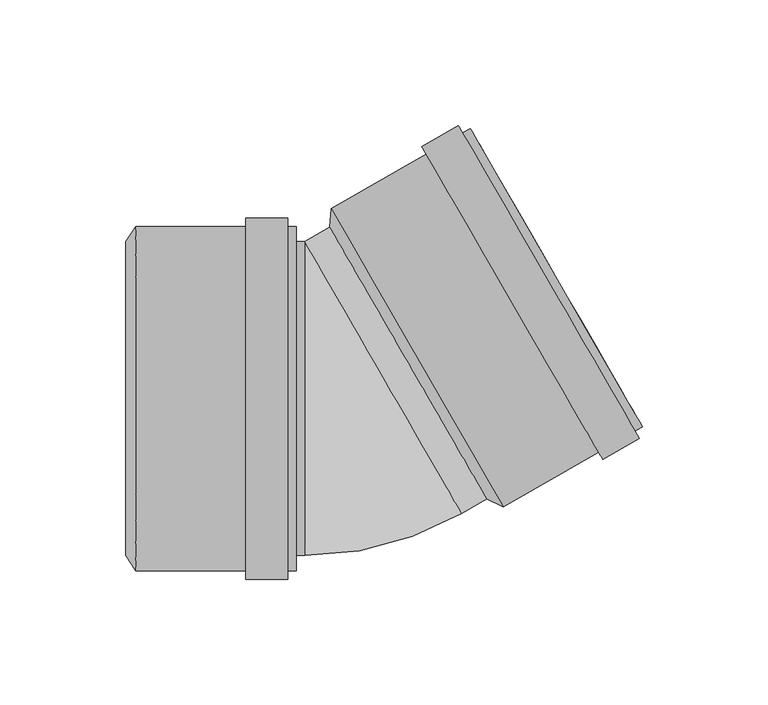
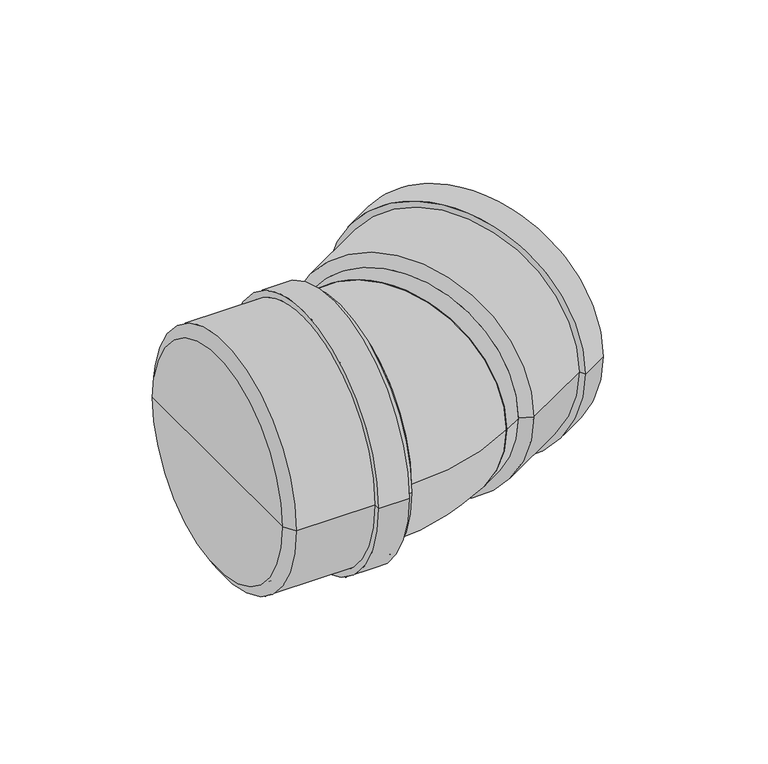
"""IFC4 building model written with IfcOpenShell, lengths in millimetres: pipe fitting geometry, pf_KGB : pf_KGB."""

from ifc_helpers import new_model, si_unit, point, frame, origin, origin_2d, place, context, project, spatial, polyline, circle_curve, ellipse_curve, trimmed, segment, composite_curve, outline, extrude, source, transform, mapped, element, save
from ifc_brep_helpers import plane_surface, cylinder_surface, revolved_surface, advanced_brep


def pipe_fitting_5a6e30b1(model_context):
    return source(origin(), model_context, "Body", "SolidModel", [
        advanced_brep(
        [(55.7585189, -39.9765877, 0.0), (-6.7414811, 68.2765877, 0.0), (-6.2407769, 75.6093427, 0.0), (62.3592231, -43.2093427, 0.0), (24.5085189, 14.15, 0.0), (117.6982464, -11.2593427, 0.0), (49.0982464, 107.5593427, 0.0), (52.1482464, 102.2765877, 0.0), (114.6482464, -5.9765877, 0.0), (46.15376, 105.8593427, 0.0), (114.75376, -12.9593427, 0.0), (44.45376, 108.8038291, 0.0), (116.45376, -15.9038291, 0.0), (29.9045332, 100.4038291, 0.0), (101.9045332, -24.3038291, 0.0), (31.6045332, 97.4593427, 0.0), (100.2045332, -21.3593427, 0.0), (59.3092231, -37.9265877, 0.0), (-3.1907769, 70.3265877, 0.0), (28.0592231, 16.2, 0.0)],
        [
            (0, 1, circle_curve(frame((24.5085189, 14.15, 0.0), z_axis=(0.866025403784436, 0.5000000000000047, 0.0), x_axis=(-0.5000000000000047, 0.866025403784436, 0.0)), 62.5)),
            (1, 2),
            (2, 3, circle_curve(frame((28.0592231, 16.2, 0.0), z_axis=(-0.866025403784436, -0.5000000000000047, 0.0), x_axis=(-0.5000000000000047, 0.866025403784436, 0.0)), 68.6)),
            (3, 0),
            (1, 0, circle_curve(frame((24.5085189, 14.15, 0.0), z_axis=(0.866025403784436, 0.5000000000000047, 0.0), x_axis=(-0.5000000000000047, 0.866025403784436, 0.0)), 62.5)),
            (3, 2, circle_curve(frame((28.0592231, 16.2, 0.0), z_axis=(-0.866025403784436, -0.5000000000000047, 0.0), x_axis=(-0.5000000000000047, 0.866025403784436, 0.0)), 68.6)),
            (4, 1),
            (0, 4),
            (5, 6, circle_curve(frame((83.3982464, 48.15, 0.0), z_axis=(0.866025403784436, 0.5000000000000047, 0.0), x_axis=(-0.5000000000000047, 0.866025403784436, 0.0)), 68.6)),
            (6, 7),
            (7, 8, circle_curve(frame((83.3982464, 48.15, 0.0), z_axis=(-0.866025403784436, -0.5000000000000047, 0.0), x_axis=(-0.5000000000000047, 0.866025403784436, 0.0)), 62.5)),
            (8, 5),
            (9, 10, circle_curve(frame((80.45376, 46.45, 0.0), z_axis=(0.866025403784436, 0.5000000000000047, 0.0), x_axis=(-0.5000000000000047, 0.866025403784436, 0.0)), 68.6)),
            (10, 5),
            (5, 6, circle_curve(frame((83.3982464, 48.15, 0.0), z_axis=(-0.866025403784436, -0.5000000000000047, 0.0), x_axis=(-0.5000000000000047, 0.866025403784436, 0.0)), 68.6)),
            (6, 9),
            (11, 12, circle_curve(frame((80.45376, 46.45, 0.0), z_axis=(0.866025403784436, 0.5000000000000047, 0.0), x_axis=(-0.5000000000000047, 0.866025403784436, 0.0)), 72.0)),
            (12, 10),
            (9, 11),
            (13, 14, circle_curve(frame((65.9045332, 38.05, 0.0), z_axis=(0.866025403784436, 0.5000000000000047, 0.0), x_axis=(-0.5000000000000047, 0.866025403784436, 0.0)), 72.0)),
            (14, 12),
            (11, 13),
            (15, 16, circle_curve(frame((65.9045332, 38.05, 0.0), z_axis=(0.866025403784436, 0.5000000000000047, 0.0), x_axis=(-0.5000000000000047, 0.866025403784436, 0.0)), 68.6)),
            (16, 14),
            (13, 15),
            (8, 7, circle_curve(frame((83.3982464, 48.15, 0.0), z_axis=(-0.866025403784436, -0.5000000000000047, 0.0), x_axis=(-0.5000000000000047, 0.866025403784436, 0.0)), 62.5)),
            (10, 9, circle_curve(frame((80.45376, 46.45, 0.0), z_axis=(0.866025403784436, 0.5000000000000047, 0.0), x_axis=(-0.5000000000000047, 0.866025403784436, 0.0)), 68.6)),
            (12, 11, circle_curve(frame((80.45376, 46.45, 0.0), z_axis=(0.866025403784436, 0.5000000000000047, 0.0), x_axis=(-0.5000000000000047, 0.866025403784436, 0.0)), 72.0)),
            (14, 13, circle_curve(frame((65.9045332, 38.05, 0.0), z_axis=(0.866025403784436, 0.5000000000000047, 0.0), x_axis=(-0.5000000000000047, 0.866025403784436, 0.0)), 72.0)),
            (16, 15, circle_curve(frame((65.9045332, 38.05, 0.0), z_axis=(0.866025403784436, 0.5000000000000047, 0.0), x_axis=(-0.5000000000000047, 0.866025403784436, 0.0)), 68.6)),
            (2, 15),
            (16, 3),
            (17, 18, circle_curve(frame((28.0592231, 16.2, 0.0), z_axis=(0.866025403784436, 0.5000000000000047, 0.0), x_axis=(-0.5000000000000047, 0.866025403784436, 0.0)), 62.5)),
            (18, 19),
            (19, 17),
            (18, 17, circle_curve(frame((28.0592231, 16.2, 0.0), z_axis=(0.866025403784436, 0.5000000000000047, 0.0), x_axis=(-0.5000000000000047, 0.866025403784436, 0.0)), 62.5)),
            (7, 18),
            (17, 8),
        ],
        [
            revolved_surface(polyline([(-6.2407769, 75.6093427, 0.0), (-6.7414811, 68.2765877, 0.0)]), (24.5085189, 14.15, 0.0), (-0.866025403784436, -0.5000000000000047, 0.0)),
            plane_surface(frame((24.5085189, 14.15, 0.0), z_axis=(-0.866025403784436, -0.5000000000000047, 0.0), x_axis=(-0.5000000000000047, 0.866025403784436, 0.0))),
            plane_surface(frame((83.3982464, 48.15, 0.0), z_axis=(0.866025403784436, 0.5000000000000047, 0.0), x_axis=(-0.5000000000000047, 0.866025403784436, 0.0))),
            cylinder_surface(frame((24.5085189, 14.15, 0.0), z_axis=(-0.866025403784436, -0.5000000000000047, 0.0), x_axis=(-0.5000000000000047, 0.866025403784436, 0.0)), 68.6),
            plane_surface(frame((80.45376, 46.45, 0.0), z_axis=(0.866025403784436, 0.5000000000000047, 0.0), x_axis=(-0.5000000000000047, 0.866025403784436, 0.0))),
            cylinder_surface(frame((24.5085189, 14.15, 0.0), z_axis=(-0.866025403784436, -0.5000000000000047, 0.0), x_axis=(-0.5000000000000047, 0.866025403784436, 0.0)), 72.0),
            plane_surface(frame((65.9045332, 38.05, 0.0), z_axis=(-0.866025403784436, -0.5000000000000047, 0.0), x_axis=(-0.5000000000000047, 0.866025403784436, 0.0))),
            plane_surface(frame((28.0592231, 16.2, 0.0), z_axis=(0.866025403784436, 0.5000000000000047, 0.0), x_axis=(-0.5000000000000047, 0.866025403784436, 0.0))),
            revolved_surface(polyline([(-3.1907769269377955, 70.32658774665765, 0.0), (52.14824640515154, 102.2765877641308, 0.0)]), (24.5085189, 14.15, 0.0), (-0.866025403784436, -0.5000000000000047, 0.0)),
        ],
        [
            (0, [[1, 2, 3, 4]]),
            (0, [[5, -4, 6, -2]]),
            (1, [[7, -1, 8]]),
            (1, [[-8, -5, -7]]),
            (2, [[9, 10, 11, 12]]),
            (3, [[13, 14, 15, 16]]),
            (4, [[17, 18, -13, 19]]),
            (5, [[20, 21, -17, 22]]),
            (6, [[23, 24, -20, 25]]),
            (2, [[-15, -12, 26, -10]]),
            (3, [[27, -16, -9, -14]]),
            (4, [[28, -19, -27, -18]]),
            (5, [[29, -22, -28, -21]]),
            (6, [[30, -25, -29, -24]]),
            (3, [[-3, 31, -30, 32]]),
            (3, [[-6, -32, -23, -31]]),
            (7, [[33, 34, 35]]),
            (7, [[36, -35, -34]]),
            (8, [[-11, 37, -33, 38]]),
            (8, [[-26, -38, -36, -37]]),
        ],
    ),
        advanced_brep(
        [(-88.1, -62.5, 0.0), (-88.1, 62.5, 0.0), (-84.0, 68.6, 0.0), (-84.0, -68.6, 0.0), (-88.1, 0.0, 0.0), (-20.1, -68.6, 0.0), (-20.1, 68.6, 0.0), (-20.1, 62.5, 0.0), (-20.1, -62.5, 0.0), (-23.5, 68.6, 0.0), (-23.5, -68.6, 0.0), (-23.5, 72.0, 0.0), (-23.5, -72.0, 0.0), (-40.3, 72.0, 0.0), (-40.3, -72.0, 0.0), (-40.3, 68.6, 0.0), (-40.3, -68.6, 0.0), (-84.0, -62.5, 0.0), (-84.0, 62.5, 0.0), (-84.0, 0.0, 0.0)],
        [
            (0, 1, circle_curve(frame((-88.1, 0.0, 0.0), z_axis=(1.0, 0.0, 0.0), x_axis=(0.0, 1.0, 0.0)), 62.5)),
            (1, 2),
            (2, 3, circle_curve(frame((-84.0, 0.0, 0.0), z_axis=(-1.0, 0.0, 0.0), x_axis=(0.0, 1.0, 0.0)), 68.6)),
            (3, 0),
            (1, 0, circle_curve(frame((-88.1, 0.0, 0.0), z_axis=(1.0, 0.0, 0.0), x_axis=(0.0, 1.0, 0.0)), 62.5)),
            (3, 2, circle_curve(frame((-84.0, 0.0, 0.0), z_axis=(-1.0, 0.0, 0.0), x_axis=(0.0, 1.0, 0.0)), 68.6)),
            (4, 1),
            (0, 4),
            (5, 6, circle_curve(frame((-20.1, 0.0, 0.0), z_axis=(1.0, 0.0, 0.0), x_axis=(0.0, 1.0, 0.0)), 68.6)),
            (6, 7),
            (7, 8, circle_curve(frame((-20.1, 0.0, 0.0), z_axis=(-1.0, 0.0, 0.0), x_axis=(0.0, 1.0, 0.0)), 62.5)),
            (8, 5),
            (9, 10, circle_curve(frame((-23.5, 0.0, 0.0), z_axis=(1.0, 0.0, 0.0), x_axis=(0.0, 1.0, 0.0)), 68.6)),
            (10, 5),
            (5, 6, circle_curve(frame((-20.1, 0.0, 0.0), z_axis=(-1.0, 0.0, 0.0), x_axis=(0.0, 1.0, 0.0)), 68.6)),
            (6, 9),
            (11, 12, circle_curve(frame((-23.5, 0.0, 0.0), z_axis=(1.0, 0.0, 0.0), x_axis=(0.0, 1.0, 0.0)), 72.0)),
            (12, 10),
            (9, 11),
            (13, 14, circle_curve(frame((-40.3, 0.0, 0.0), z_axis=(1.0, 0.0, 0.0), x_axis=(0.0, 1.0, 0.0)), 72.0)),
            (14, 12),
            (11, 13),
            (15, 16, circle_curve(frame((-40.3, 0.0, 0.0), z_axis=(1.0, 0.0, 0.0), x_axis=(0.0, 1.0, 0.0)), 68.6)),
            (16, 14),
            (13, 15),
            (8, 7, circle_curve(frame((-20.1, 0.0, 0.0), z_axis=(-1.0, 0.0, 0.0), x_axis=(0.0, 1.0, 0.0)), 62.5)),
            (10, 9, circle_curve(frame((-23.5, 0.0, 0.0), z_axis=(1.0, 0.0, 0.0), x_axis=(0.0, 1.0, 0.0)), 68.6)),
            (12, 11, circle_curve(frame((-23.5, 0.0, 0.0), z_axis=(1.0, 0.0, 0.0), x_axis=(0.0, 1.0, 0.0)), 72.0)),
            (14, 13, circle_curve(frame((-40.3, 0.0, 0.0), z_axis=(1.0, 0.0, 0.0), x_axis=(0.0, 1.0, 0.0)), 72.0)),
            (16, 15, circle_curve(frame((-40.3, 0.0, 0.0), z_axis=(1.0, 0.0, 0.0), x_axis=(0.0, 1.0, 0.0)), 68.6)),
            (2, 15),
            (16, 3),
            (17, 18, circle_curve(frame((-84.0, 0.0, 0.0), z_axis=(1.0, 0.0, 0.0), x_axis=(0.0, 1.0, 0.0)), 62.5)),
            (18, 19),
            (19, 17),
            (18, 17, circle_curve(frame((-84.0, 0.0, 0.0), z_axis=(1.0, 0.0, 0.0), x_axis=(0.0, 1.0, 0.0)), 62.5)),
            (7, 18),
            (17, 8),
        ],
        [
            revolved_surface(polyline([(-84.0, 68.6, 0.0), (-88.1, 62.5, 0.0)]), (-88.1, 0.0, 0.0), (-1.0, 0.0, 0.0)),
            plane_surface(frame((-88.1, 0.0, 0.0), z_axis=(-1.0, 0.0, 0.0), x_axis=(0.0, 1.0, 0.0))),
            plane_surface(frame((-20.1, 0.0, 0.0), z_axis=(1.0, 0.0, 0.0), x_axis=(0.0, 1.0, 0.0))),
            cylinder_surface(frame((-88.1, 0.0, 0.0), z_axis=(-1.0, 0.0, 0.0), x_axis=(0.0, 1.0, 0.0)), 68.6),
            plane_surface(frame((-23.5, 0.0, 0.0), z_axis=(1.0, 0.0, 0.0), x_axis=(0.0, 1.0, 0.0))),
            cylinder_surface(frame((-88.1, 0.0, 0.0), z_axis=(-1.0, 0.0, 0.0), x_axis=(0.0, 1.0, 0.0)), 72.0),
            plane_surface(frame((-40.3, 0.0, 0.0), z_axis=(-1.0, 0.0, 0.0), x_axis=(0.0, 1.0, 0.0))),
            plane_surface(frame((-84.0, 0.0, 0.0), z_axis=(1.0, 0.0, 0.0), x_axis=(0.0, 1.0, 0.0))),
            revolved_surface(polyline([(-84.0, 62.5, 0.0), (-20.099999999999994, 62.5, 0.0)]), (-88.1, 0.0, 0.0), (-1.0, 0.0, 0.0)),
        ],
        [
            (0, [[1, 2, 3, 4]]),
            (0, [[5, -4, 6, -2]]),
            (1, [[7, -1, 8]]),
            (1, [[-8, -5, -7]]),
            (2, [[9, 10, 11, 12]]),
            (3, [[13, 14, 15, 16]]),
            (4, [[17, 18, -13, 19]]),
            (5, [[20, 21, -17, 22]]),
            (6, [[23, 24, -20, 25]]),
            (2, [[-15, -12, 26, -10]]),
            (3, [[27, -16, -9, -14]]),
            (4, [[28, -19, -27, -18]]),
            (5, [[29, -22, -28, -21]]),
            (6, [[30, -25, -29, -24]]),
            (3, [[-3, 31, -30, 32]]),
            (3, [[-6, -32, -23, -31]]),
            (7, [[33, 34, 35]]),
            (7, [[36, -35, -34]]),
            (8, [[-11, 37, -33, 38]]),
            (8, [[-26, -38, -36, -37]]),
        ],
    ),
        extrude(outline(composite_curve([segment(trimmed(circle_curve(origin_2d(), 62.5), [point((0.0, -62.5))], [point((0.0, 62.5000001))], False, "CARTESIAN"), True, "CONTINUOUS"), segment(trimmed(circle_curve(origin_2d(), 62.5), [point((0.0, 62.5000001))], [point((0.0, -62.5))], False, "CARTESIAN"), True, "CONTINUOUS")], self_intersect=False)), frame((14.5031755, 8.3734123, 0.0), z_axis=(0.8660254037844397, 0.49999999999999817, 0.0), x_axis=(0.0, 0.0, 1.0)), (0.0, 0.0, 1.0), 11.5531755),
        extrude(outline(composite_curve([segment(trimmed(circle_curve(origin_2d(), 62.5), [point((-62.5, 0.0))], [point((62.5, 0.0))], False, "CARTESIAN"), True, "CONTINUOUS"), segment(trimmed(circle_curve(origin_2d(), 62.5), [point((62.5, 0.0))], [point((-62.5, 0.0))], False, "CARTESIAN"), True, "CONTINUOUS")], self_intersect=False)), frame((-84.0, 0.0, 0.0), z_axis=(1.0, 0.0, 0.0), x_axis=(0.0, 1.0, 0.0)), (0.0, 0.0, 1.0), 67.2531755),
        advanced_brep(
        [(-16.7468245, -62.5, 0.0), (-16.7468245, 62.5, 0.0), (45.7531755, -45.7531755, 0.0)],
        [
            (0, 1, circle_curve(frame((-16.7468245, 0.0, 0.0), z_axis=(-1.0, 0.0, 0.0), x_axis=(0.0, 1.0, 0.0)), 62.5)),
            (1, 0, circle_curve(frame((-16.7468245, 0.0, 0.0), z_axis=(-1.0, 0.0, 0.0), x_axis=(0.0, 1.0, 0.0)), 62.5)),
            (2, 1, circle_curve(frame((14.5031755, 8.3734123, 0.0), z_axis=(0.8660254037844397, 0.49999999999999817, 0.0), x_axis=(-0.49999999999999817, 0.8660254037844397, 0.0)), 62.5)),
            (1, 2, circle_curve(frame((14.5031755, 8.3734123, 0.0), z_axis=(0.8660254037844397, 0.49999999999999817, 0.0), x_axis=(-0.49999999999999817, 0.8660254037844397, 0.0)), 62.5)),
            (2, 0, circle_curve(frame((-16.7468245, 62.5, 0.0), z_axis=(0.0, 0.0, -1.0), x_axis=(0.0, -1.0, 0.0)), 125.0)),
        ],
        [
            plane_surface(frame((-16.7468245, 62.5, -14.8), z_axis=(-1.0, 0.0, 0.0), x_axis=(0.0, -1.0, 0.0))),
            plane_surface(frame((-16.7468245, 62.5, -14.8), z_axis=(0.8660254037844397, 0.4999999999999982, 0.0), x_axis=(0.4999999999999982, -0.8660254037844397, 0.0))),
            revolved_surface(trimmed(ellipse_curve(frame((-16.7468245, 0.0, 0.0), z_axis=(1.0, 0.0, 0.0), x_axis=(0.0, 1.0, 0.0)), 62.5, 62.5), [point((-16.7468245, -62.5, 0.0))], [point((-16.7468245, 62.5, 0.0))], True, "CARTESIAN"), (-16.7468245, 62.5, -14.8), (0.0, 0.0, -1.0)),
            revolved_surface(trimmed(ellipse_curve(frame((-16.7468245, 0.0, 0.0), z_axis=(1.0, 0.0, 0.0), x_axis=(0.0, 1.0, 0.0)), 62.5, 62.5), [point((-16.7468245, 62.5, 0.0))], [point((-16.7468245, -62.5, 0.0))], True, "CARTESIAN"), (-16.7468245, 62.5, -14.8), (0.0, 0.0, -1.0)),
        ],
        [
            (0, [[1, 2]]),
            (1, [[3, 4]]),
            (2, [[5, -2, -3]]),
            (3, [[-1, -5, -4]]),
        ],
    ),
    ])


if __name__ == "__main__":
    model = new_model("IFC4")
    model_context = context("Model", 3, world=origin())
    ifc_project = project(units=[si_unit("LENGTHUNIT", "METRE", prefix="MILLI")], contexts=[model_context])
    site = spatial("IfcSite", under=ifc_project)
    building = spatial("IfcBuilding", under=site)
    placement = place(None, origin())
    pipe_fitting_shape = pipe_fitting_5a6e30b1(model_context)
    element("IfcPipeFitting", 1, ObjectType="pf_KGB : pf_KGB", at=placement, inside=building, context=model_context, shape_type="MappedRepresentation", body=[
        mapped(pipe_fitting_shape, transform((0.0, 0.0, 0.0), x_axis=(1.0, 0.0, 0.0), y_axis=(0.0, 1.0, 0.0), z_axis=(0.0, 0.0, 1.0))),
    ])
    save(model, "model.ifc")
